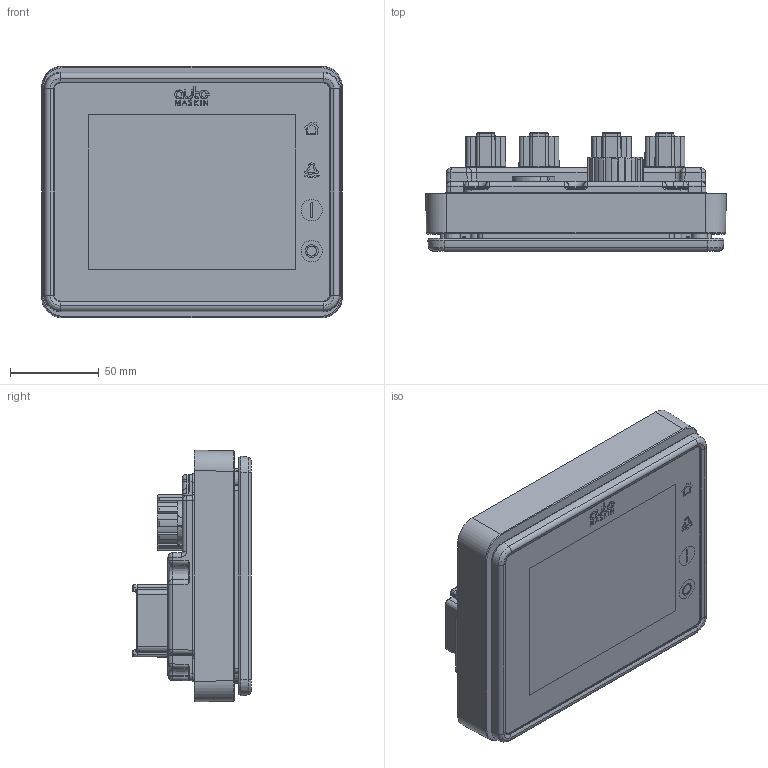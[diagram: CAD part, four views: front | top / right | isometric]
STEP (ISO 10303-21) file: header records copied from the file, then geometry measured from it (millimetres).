
FILE_DESCRIPTION(/* description */ (''),/* implementation_level */ '2;1');
FILE_NAME(/* name */ 'C:/Users/Magnus/Downloads/DCU-210E-Exterior-rev.A/DCU 210E Exterior rev.A v1-mb.step',/* time_stamp */ '2022-03-17T15:40:16+01:00',/* author */ (''),/* organization */ (''),/* preprocessor_version */ 'ST-DEVELOPER v18.1',/* originating_system */ 'Autodesk Translation Framework v10.10.0.1391',/* authorisation */ '');
FILE_SCHEMA (('AUTOMOTIVE_DESIGN { 1 0 10303 214 3 1 1 }'));
Products named in the file (4): DCU 210E Exterior rev.A; 7226-210-P3-CABINET-FRAME; Assembly_Boolean_(27); Assembly_Boolean_(33)
Assembly tree (3 placements, depth 2):
  DCU 210E Exterior rev.A
    7226-210-P3-CABINET-FRAME
    Assembly_Boolean_(27)
    Assembly_Boolean_(33)
Bounding box: 169 x 66.67 x 141.5 mm (x, y, z)
Volume: 829245.3 mm3; surface area: 199696.5 mm2
Topology: 18 solids, 20 shells, 5068 faces, 12393 edges, 7538 vertices
Faces by surface type: plane 2010, cylinder 1379, bspline 1229, torus 194, cone 185, sphere 71
Full cylindrical faces by diameter (mm): 0.45 x16, 1.56 x48, 2.5 x4, 5.565 x1, 7.205 x1, 12.003 x2, 17.5 x1
Entity records: 245538 total; most frequent: CARTESIAN_POINT 131253, ORIENTED_EDGE 24730, DIRECTION 22757, EDGE_CURVE 12365, AXIS2_PLACEMENT_3D 8051, VERTEX_POINT 7538, LINE 6655, VECTOR 6655
